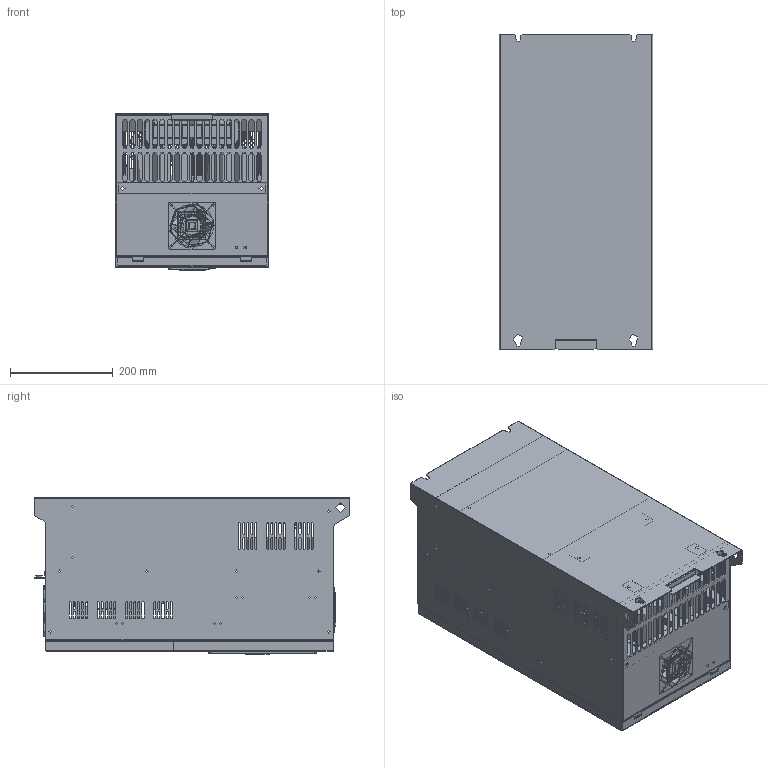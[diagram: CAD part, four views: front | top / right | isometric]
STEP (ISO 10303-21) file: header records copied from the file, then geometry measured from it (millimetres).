
FILE_DESCRIPTION(('STEP AP203'), '1');
FILE_NAME('F6', '', ('UNSPECIFIED'), ('UNSPECIFIED'), 'C3D Converter', 'C3D Toolkit', '');
FILE_SCHEMA(('CONFIG_CONTROL_DESIGN'));
Length unit declared in the file: millimetre
Products named in the file (1): INPRIME-G75-4BF
Bounding box: 300 x 615 x 306 mm (x, y, z)
Topology: 35 solids, 439 shells, 2231 faces, 10771 edges, 8814 vertices
Faces by surface type: plane 1218, cylinder 787, bspline 119, torus 98, cone 9
Full cylindrical faces by diameter (mm): 1.5 x24, 2.5 x1, 3.3 x7, 4 x1, 4.1 x36, 4.2 x14, 4.5 x14, 5 x1, 5.5 x19, 6 x6, 6.1 x1, 6.5 x1, 6.8 x6, 7.2 x2, 9 x2, 10 x2, 11 x1, 12 x1, 13 x2, 14 x1, 18.2 x2, 20 x2, 35 x14, 50 x1, 84 x1, 88 x1
Entity records: 155551 total; most frequent: CARTESIAN_POINT 51580, DIRECTION 15849, ORIENTED_EDGE 14155, EDGE_CURVE 10512, VERTEX_POINT 8807, LINE 6659, VECTOR 6659, AXIS2_PLACEMENT_3D 4595
